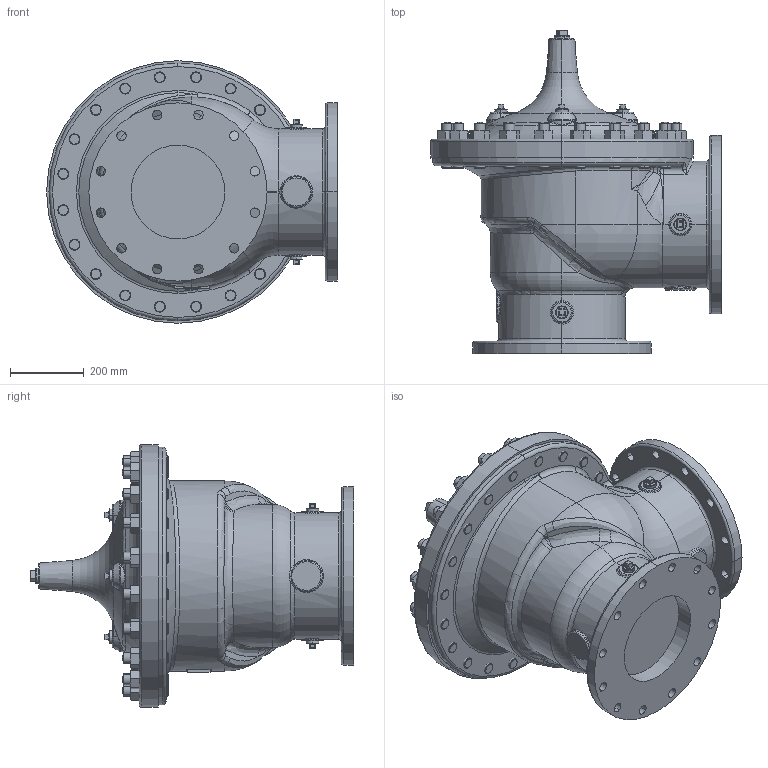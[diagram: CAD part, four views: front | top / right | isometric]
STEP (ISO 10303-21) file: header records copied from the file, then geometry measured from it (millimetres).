
FILE_DESCRIPTION (( 'STEP AP203' ), '1' );
FILE_NAME ('12in 100-01 150AA.STEP', '2021-03-05T13:33:10', ( '' ), ( '' ), 'SwSTEP 2.0', 'SolidWorks 2019', '' );
FILE_SCHEMA (( 'CONFIG_CONTROL_DESIGN' ));
Length unit declared in the file: inch
Products named in the file (7): 1.0 NPT SQ HD PIPE PLUG (67660)_18-8 SST; 12in Body HyAn150_D.I. Flat Face; STUD 1.250-7 UNC (42786)_18-8 SST 4.90 LG; 1.25 NPT SQ HD PIPE PLUG (67660)_18-8 SST; 12in Cover, 100S & 100GS_with spotface; 12in 100-01 150AA; Hexnut 1.250-7 UNC (67820)_ASF-STEEL,CP
Assembly tree (52 placements, depth 2):
  12in 100-01 150AA
    12in Body HyAn150_D.I. Flat Face
    12in Cover, 100S & 100GS_with spotface
    STUD 1.250-7 UNC (42786)_18-8 SST 4.90 LG  x20
    Hexnut 1.250-7 UNC (67820)_ASF-STEEL,CP  x20
    1.0 NPT SQ HD PIPE PLUG (67660)_18-8 SST  x9
    1.25 NPT SQ HD PIPE PLUG (67660)_18-8 SST
Bounding box: 787.4 x 875.28 x 711.2 mm (x, y, z)
Volume: 134864980.1 mm3; surface area: 4428423.5 mm2
Topology: 53 solids, 53 shells, 1835 faces, 4086 edges, 2352 vertices
Faces by surface type: cone 600, cylinder 570, plane 327, bspline 135, torus 118, sphere 85
Entity records: 37833 total; most frequent: CARTESIAN_POINT 17456, DIRECTION 4032, ORIENTED_EDGE 3720, EDGE_CURVE 1860, AXIS2_PLACEMENT_3D 1770, VERTEX_POINT 1133, CIRCLE 1058, EDGE_LOOP 1017
